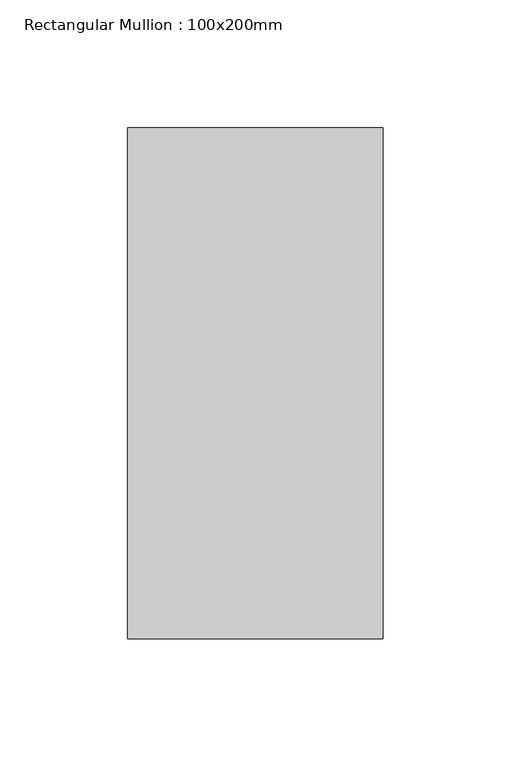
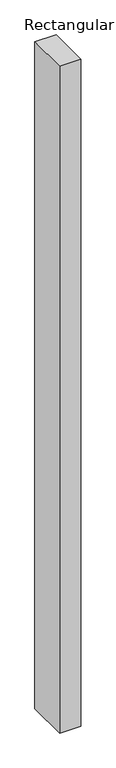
"""IFC4 building model written with IfcOpenShell, lengths in millimetres: member geometry, Rectangular Mullion : 100x200mm."""

from ifc_helpers import new_model, si_unit, frame, origin, place, context, project, spatial, polyline, outline, extrude, source, transform, mapped, element, save


def rectangular_mullion_100x200mm_aab9c739(model_context):
    return source(origin(), model_context, "Body", "SweptSolid", [
        extrude(outline(polyline([(0.0, 100.0), (0.0, -100.0), (-100.0, -100.0), (-100.0, 100.0), (0.0, 100.0)])), frame((0.0, 0.0, -3300.0), z_axis=(0.0, 0.0, 1.0), x_axis=(1.0, 0.0, 0.0)), (0.0, 0.0, 1.0), 3300.0),
    ])


if __name__ == "__main__":
    model = new_model("IFC4")
    model_context = context("Model", 3, world=origin())
    ifc_project = project(units=[si_unit("LENGTHUNIT", "METRE", prefix="MILLI")], contexts=[model_context])
    site = spatial("IfcSite", under=ifc_project)
    building = spatial("IfcBuilding", under=site)
    placement = place(None, origin())
    rectangular_mullion_100x200mm_shape = rectangular_mullion_100x200mm_aab9c739(model_context)
    element("IfcMember", 1, ObjectType="Rectangular Mullion : 100x200mm", at=placement, inside=building, context=model_context, shape_type="MappedRepresentation", body=[
        mapped(rectangular_mullion_100x200mm_shape, transform((0.0, 0.0, 0.0), x_axis=(1.0, 0.0, 0.0), y_axis=(0.0, 1.0, 0.0), z_axis=(0.0, 0.0, 1.0))),
    ])
    save(model, "model.ifc")
